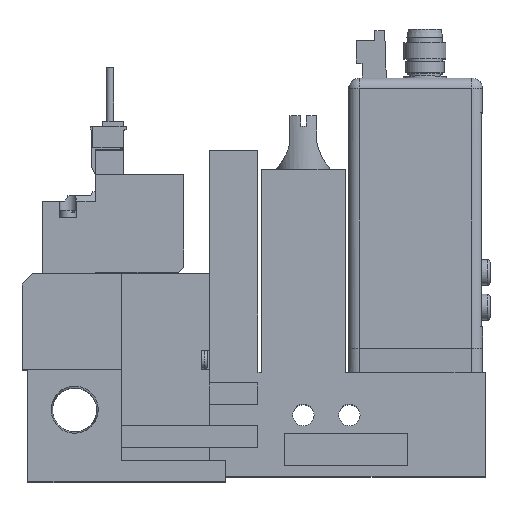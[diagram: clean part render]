
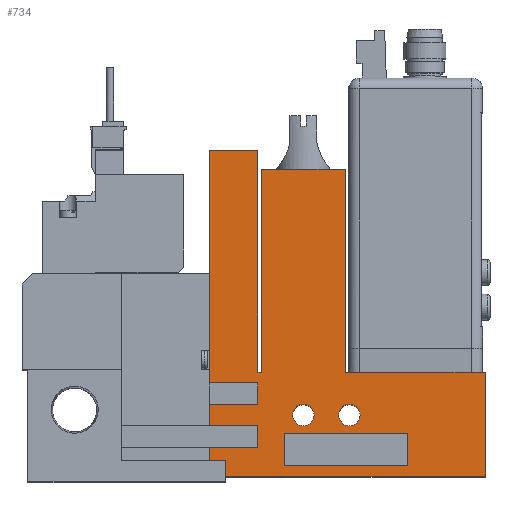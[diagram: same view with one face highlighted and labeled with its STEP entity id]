
A CAD part, top view. The second image highlights one B-rep face of the part: STEP entity #734.
In plain terms, the highlighted planar face has unit normal (0, 0, 1).
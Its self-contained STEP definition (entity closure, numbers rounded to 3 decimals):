
#734=ADVANCED_FACE('',(#2584,#2585,#2586,#2587),#2588,.T.);
#2584=FACE_OUTER_BOUND('',#6235,.T.);
#2585=FACE_BOUND('',#6236,.T.);
#2586=FACE_BOUND('',#6237,.T.);
#2587=FACE_BOUND('',#6238,.T.);
#2588=PLANE('',#6239);
#6235=EDGE_LOOP('',(#11407,#11408,#11409,#11410,#11411,#11412,#11413,#11414,#11415,#11416,#11417,#11418,#11419,#11420,#11421,#11422,#11423,#11424));
#6236=EDGE_LOOP('',(#11425,#11426,#11427,#11428));
#6237=EDGE_LOOP('',(#11429));
#6238=EDGE_LOOP('',(#11430));
#6239=AXIS2_PLACEMENT_3D('',#11431,#11432,#11433);
#11407=ORIENTED_EDGE('',*,*,#22714,.T.);
#11408=ORIENTED_EDGE('',*,*,#22715,.T.);
#11409=ORIENTED_EDGE('',*,*,#22705,.T.);
#11410=ORIENTED_EDGE('',*,*,#22716,.T.);
#11411=ORIENTED_EDGE('',*,*,#22717,.T.);
#11412=ORIENTED_EDGE('',*,*,#22718,.T.);
#11413=ORIENTED_EDGE('',*,*,#22683,.T.);
#11414=ORIENTED_EDGE('',*,*,#22719,.T.);
#11415=ORIENTED_EDGE('',*,*,#22713,.T.);
#11416=ORIENTED_EDGE('',*,*,#22720,.T.);
#11417=ORIENTED_EDGE('',*,*,#22657,.T.);
#11418=ORIENTED_EDGE('',*,*,#22667,.T.);
#11419=ORIENTED_EDGE('',*,*,#22721,.T.);
#11420=ORIENTED_EDGE('',*,*,#22722,.T.);
#11421=ORIENTED_EDGE('',*,*,#22696,.T.);
#11422=ORIENTED_EDGE('',*,*,#22723,.T.);
#11423=ORIENTED_EDGE('',*,*,#22724,.T.);
#11424=ORIENTED_EDGE('',*,*,#22725,.T.);
#11425=ORIENTED_EDGE('',*,*,#22726,.T.);
#11426=ORIENTED_EDGE('',*,*,#22727,.T.);
#11427=ORIENTED_EDGE('',*,*,#22693,.T.);
#11428=ORIENTED_EDGE('',*,*,#22728,.T.);
#11429=ORIENTED_EDGE('',*,*,#22729,.T.);
#11430=ORIENTED_EDGE('',*,*,#22730,.T.);
#11431=CARTESIAN_POINT('',(0.0,0.0,10.0));
#11432=DIRECTION('',(0.0,0.0,1.0));
#11433=DIRECTION('',(1.0,0.0,0.0));
#22657=EDGE_CURVE('',#27448,#27446,#27449,.T.);
#22667=EDGE_CURVE('',#27446,#27465,#27467,.T.);
#22683=EDGE_CURVE('',#27490,#27495,#27497,.T.);
#22693=EDGE_CURVE('',#27510,#27515,#27517,.T.);
#22696=EDGE_CURVE('',#27523,#27521,#27524,.T.);
#22705=EDGE_CURVE('',#27534,#27539,#27541,.T.);
#22713=EDGE_CURVE('',#27549,#27551,#27553,.T.);
#22714=EDGE_CURVE('',#27554,#27555,#27556,.T.);
#22715=EDGE_CURVE('',#27555,#27534,#27557,.T.);
#22716=EDGE_CURVE('',#27539,#27558,#27559,.T.);
#22717=EDGE_CURVE('',#27558,#27560,#27561,.T.);
#22718=EDGE_CURVE('',#27560,#27490,#27562,.T.);
#22719=EDGE_CURVE('',#27495,#27549,#27563,.T.);
#22720=EDGE_CURVE('',#27551,#27448,#27564,.T.);
#22721=EDGE_CURVE('',#27465,#27565,#27566,.T.);
#22722=EDGE_CURVE('',#27565,#27523,#27567,.T.);
#22723=EDGE_CURVE('',#27521,#27568,#27569,.T.);
#22724=EDGE_CURVE('',#27568,#27570,#27571,.T.);
#22725=EDGE_CURVE('',#27570,#27554,#27572,.T.);
#22726=EDGE_CURVE('',#27573,#27574,#27575,.T.);
#22727=EDGE_CURVE('',#27574,#27510,#27576,.T.);
#22728=EDGE_CURVE('',#27515,#27573,#27577,.T.);
#22729=EDGE_CURVE('',#27578,#27578,#27579,.T.);
#22730=EDGE_CURVE('',#27580,#27580,#27581,.T.);
#27446=VERTEX_POINT('',#34662);
#27448=VERTEX_POINT('',#34665);
#27449=LINE('',#34666,#34667);
#27465=VERTEX_POINT('',#34691);
#27467=LINE('',#34694,#34695);
#27490=VERTEX_POINT('',#34728);
#27495=VERTEX_POINT('',#34735);
#27497=LINE('',#34738,#34739);
#27510=VERTEX_POINT('',#34758);
#27515=VERTEX_POINT('',#34765);
#27517=LINE('',#34768,#34769);
#27521=VERTEX_POINT('',#34774);
#27523=VERTEX_POINT('',#34777);
#27524=LINE('',#34778,#34779);
#27534=VERTEX_POINT('',#34794);
#27539=VERTEX_POINT('',#34801);
#27541=LINE('',#34804,#34805);
#27549=VERTEX_POINT('',#34818);
#27551=VERTEX_POINT('',#34821);
#27553=LINE('',#34824,#34825);
#27554=VERTEX_POINT('',#34826);
#27555=VERTEX_POINT('',#34827);
#27556=LINE('',#34828,#34829);
#27557=LINE('',#34830,#34831);
#27558=VERTEX_POINT('',#34832);
#27559=LINE('',#34833,#34834);
#27560=VERTEX_POINT('',#34835);
#27561=LINE('',#34836,#34837);
#27562=LINE('',#34838,#34839);
#27563=LINE('',#34840,#34841);
#27564=LINE('',#34842,#34843);
#27565=VERTEX_POINT('',#34844);
#27566=LINE('',#34845,#34846);
#27567=LINE('',#34847,#34848);
#27568=VERTEX_POINT('',#34849);
#27569=LINE('',#34850,#34851);
#27570=VERTEX_POINT('',#34852);
#27571=LINE('',#34853,#34854);
#27572=LINE('',#34855,#34856);
#27573=VERTEX_POINT('',#34857);
#27574=VERTEX_POINT('',#34858);
#27575=LINE('',#34859,#34860);
#27576=LINE('',#34861,#34862);
#27577=LINE('',#34863,#34864);
#27578=VERTEX_POINT('',#34865);
#27579=CIRCLE('',#34866,2.0);
#27580=VERTEX_POINT('',#34867);
#27581=CIRCLE('',#34868,2.0);
#34662=CARTESIAN_POINT('',(86.6,19.5,10.0));
#34665=CARTESIAN_POINT('',(86.6,0.0,10.0));
#34666=CARTESIAN_POINT('',(86.6,0.0,10.0));
#34667=VECTOR('',#44135,1.0);
#34691=CARTESIAN_POINT('',(60.45,19.5,10.0));
#34694=CARTESIAN_POINT('',(86.6,19.5,10.0));
#34695=VECTOR('',#44145,1.0);
#34728=CARTESIAN_POINT('',(44.1,9.5,10.0));
#34735=CARTESIAN_POINT('',(44.1,5.5,10.0));
#34738=CARTESIAN_POINT('',(44.1,0.0,10.0));
#34739=VECTOR('',#44165,1.0);
#34758=CARTESIAN_POINT('',(72.1,8.0,10.0));
#34765=CARTESIAN_POINT('',(72.1,2.0,10.0));
#34768=CARTESIAN_POINT('',(72.1,0.0,10.0));
#34769=VECTOR('',#44175,1.0);
#34774=CARTESIAN_POINT('',(44.75,19.5,10.0));
#34777=CARTESIAN_POINT('',(44.75,57.5,10.0));
#34778=CARTESIAN_POINT('',(44.75,57.5,10.0));
#34779=VECTOR('',#44178,1.0);
#34794=CARTESIAN_POINT('',(44.1,17.5,10.0));
#34801=CARTESIAN_POINT('',(44.1,13.5,10.0));
#34804=CARTESIAN_POINT('',(44.1,0.0,10.0));
#34805=VECTOR('',#44187,1.0);
#34818=CARTESIAN_POINT('',(35.1,5.5,10.0));
#34821=CARTESIAN_POINT('',(35.1,0.0,10.0));
#34824=CARTESIAN_POINT('',(35.1,0.0,10.0));
#34825=VECTOR('',#44195,1.0);
#34826=CARTESIAN_POINT('',(35.1,61.0,10.0));
#34827=CARTESIAN_POINT('',(35.1,17.5,10.0));
#34828=CARTESIAN_POINT('',(35.1,61.0,10.0));
#34829=VECTOR('',#44196,1.0);
#34830=CARTESIAN_POINT('',(0.0,17.5,10.0));
#34831=VECTOR('',#44197,1.0);
#34832=CARTESIAN_POINT('',(35.1,13.5,10.0));
#34833=CARTESIAN_POINT('',(0.0,13.5,10.0));
#34834=VECTOR('',#44198,1.0);
#34835=CARTESIAN_POINT('',(35.1,9.5,10.0));
#34836=CARTESIAN_POINT('',(35.1,0.0,10.0));
#34837=VECTOR('',#44199,1.0);
#34838=CARTESIAN_POINT('',(0.0,9.5,10.0));
#34839=VECTOR('',#44200,1.0);
#34840=CARTESIAN_POINT('',(0.0,5.5,10.0));
#34841=VECTOR('',#44201,1.0);
#34842=CARTESIAN_POINT('',(18.6,0.0,10.0));
#34843=VECTOR('',#44202,1.0);
#34844=CARTESIAN_POINT('',(60.45,57.5,10.0));
#34845=CARTESIAN_POINT('',(60.45,19.5,10.0));
#34846=VECTOR('',#44203,1.0);
#34847=CARTESIAN_POINT('',(60.45,57.5,10.0));
#34848=VECTOR('',#44204,1.0);
#34849=CARTESIAN_POINT('',(44.1,19.5,10.0));
#34850=CARTESIAN_POINT('',(44.75,19.5,10.0));
#34851=VECTOR('',#44205,1.0);
#34852=CARTESIAN_POINT('',(44.1,61.0,10.0));
#34853=CARTESIAN_POINT('',(44.1,19.5,10.0));
#34854=VECTOR('',#44206,1.0);
#34855=CARTESIAN_POINT('',(44.1,61.0,10.0));
#34856=VECTOR('',#44207,1.0);
#34857=CARTESIAN_POINT('',(49.1,2.0,10.0));
#34858=CARTESIAN_POINT('',(49.1,8.0,10.0));
#34859=CARTESIAN_POINT('',(49.1,0.0,10.0));
#34860=VECTOR('',#44208,1.0);
#34861=CARTESIAN_POINT('',(0.0,8.0,10.0));
#34862=VECTOR('',#44209,1.0);
#34863=CARTESIAN_POINT('',(0.0,2.0,10.0));
#34864=VECTOR('',#44210,1.0);
#34865=CARTESIAN_POINT('',(54.6,11.5,10.0));
#34866=AXIS2_PLACEMENT_3D('',#44211,#44212,#44213);
#34867=CARTESIAN_POINT('',(63.2,11.5,10.0));
#34868=AXIS2_PLACEMENT_3D('',#44214,#44215,#44216);
#44135=DIRECTION('',(0.0,1.0,0.0));
#44145=DIRECTION('',(-1.0,0.0,0.0));
#44165=DIRECTION('',(0.0,-1.0,0.0));
#44175=DIRECTION('',(0.0,-1.0,0.0));
#44178=DIRECTION('',(0.0,-1.0,0.0));
#44187=DIRECTION('',(0.0,-1.0,0.0));
#44195=DIRECTION('',(0.0,-1.0,0.0));
#44196=DIRECTION('',(0.0,-1.0,0.0));
#44197=DIRECTION('',(1.0,0.0,0.0));
#44198=DIRECTION('',(-1.0,0.0,0.0));
#44199=DIRECTION('',(0.0,-1.0,0.0));
#44200=DIRECTION('',(1.0,0.0,0.0));
#44201=DIRECTION('',(-1.0,0.0,0.0));
#44202=DIRECTION('',(1.0,0.0,0.0));
#44203=DIRECTION('',(0.0,1.0,0.0));
#44204=DIRECTION('',(-1.0,0.0,0.0));
#44205=DIRECTION('',(-1.0,0.0,0.0));
#44206=DIRECTION('',(0.0,1.0,0.0));
#44207=DIRECTION('',(-1.0,0.0,0.0));
#44208=DIRECTION('',(0.0,1.0,0.0));
#44209=DIRECTION('',(1.0,0.0,0.0));
#44210=DIRECTION('',(-1.0,0.0,0.0));
#44211=CARTESIAN_POINT('',(52.6,11.5,10.0));
#44212=DIRECTION('',(0.0,0.0,-1.0));
#44213=DIRECTION('',(1.0,0.0,0.0));
#44214=CARTESIAN_POINT('',(61.2,11.5,10.0));
#44215=DIRECTION('',(0.0,0.0,-1.0));
#44216=DIRECTION('',(1.0,0.0,0.0));
